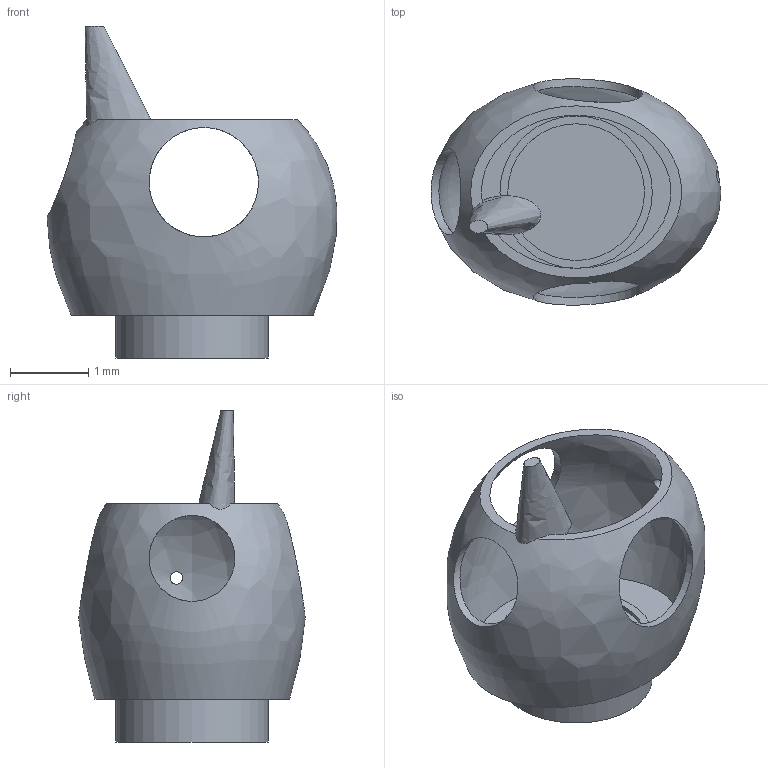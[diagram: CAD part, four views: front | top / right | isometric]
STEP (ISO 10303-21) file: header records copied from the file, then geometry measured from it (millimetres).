
FILE_DESCRIPTION(('Open CASCADE Model'),'2;1');
FILE_NAME('Open CASCADE Shape Model','2026-09-15T23:57:52',('Author'),( 'Open CASCADE'),'Open CASCADE STEP processor 7.9','Open CASCADE 7.9' ,'Unknown');
FILE_SCHEMA(('AUTOMOTIVE_DESIGN { 1 0 10303 214 1 1 1 1 }'));
Length unit declared in the file: millimetre
Products named in the file (1): Open CASCADE STEP translator 7.9 1
Bounding box: 3.71 x 2.9 x 4.25 mm (x, y, z)
Volume: 3.1 mm3; surface area: 62.9 mm2
Topology: 1 solids, 1 shells, 20 faces, 48 edges, 34 vertices
Faces by surface type: plane 9, cylinder 8, bspline 2, offset 1
Full cylindrical faces by diameter (mm): 0.16 x1, 1.1 x1, 1.4 x2, 1.75 x2, 1.95 x2
Entity records: 5844 total; most frequent: CARTESIAN_POINT 4966, DIRECTION 113, ORIENTED_EDGE 96, PCURVE 96, DEFINITIONAL_REPRESENTATION 96, B_SPLINE_CURVE_WITH_KNOTS 78, EDGE_CURVE 48, LINE 44
